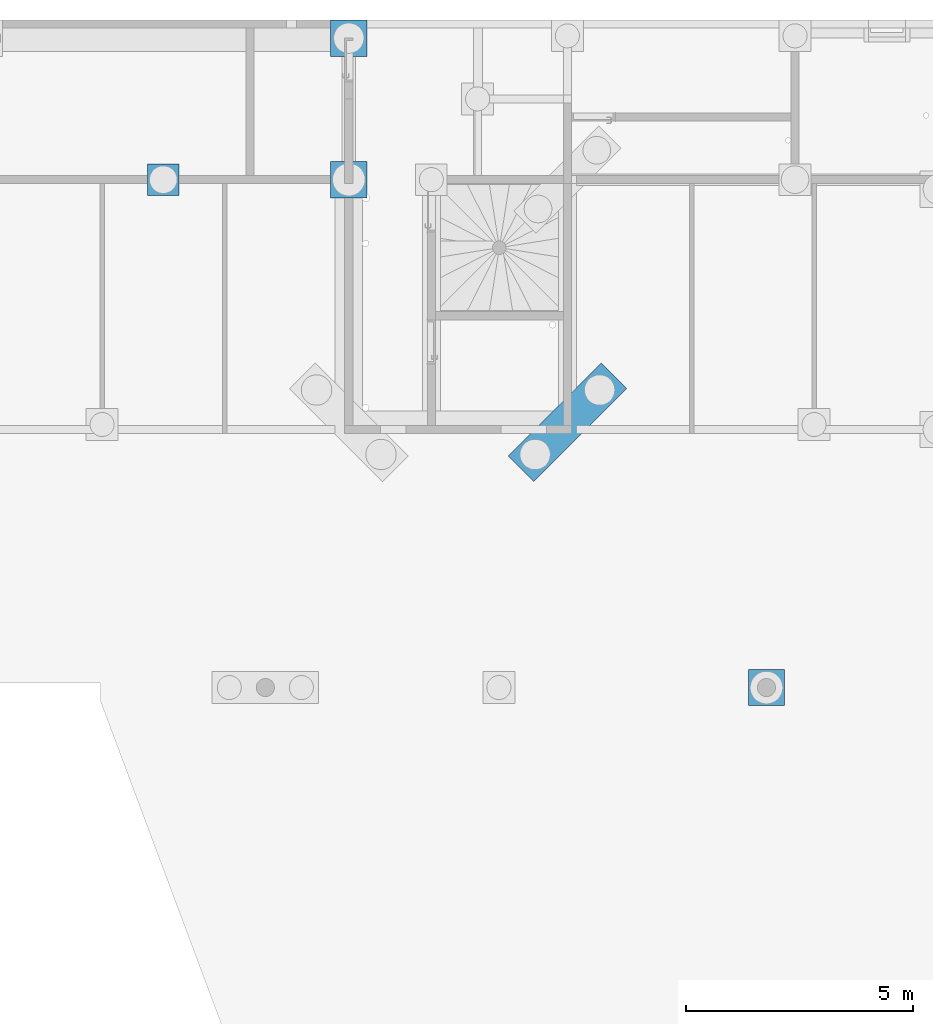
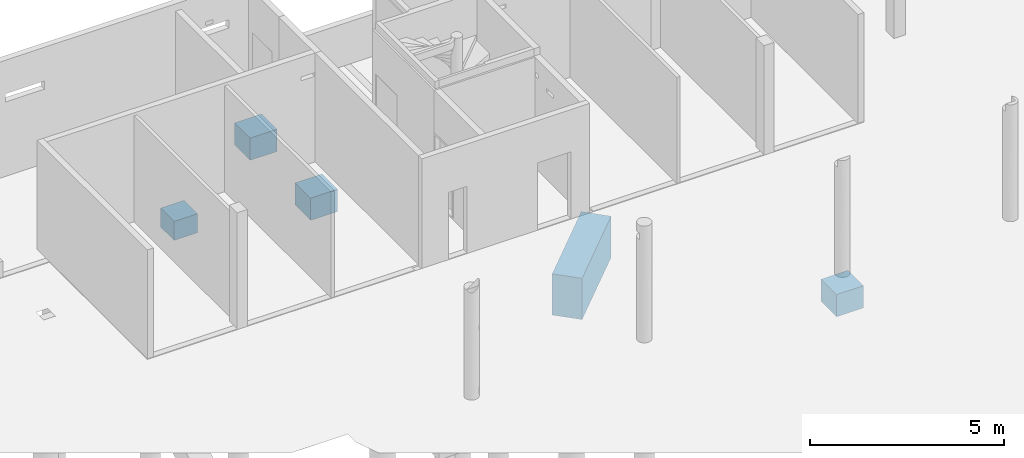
# One storey, part 18 of 29: 5 slabs.
"""IFC2X3 building model written with IfcOpenShell, lengths in centimetres."""

from ifc_helpers import new_model, entity, si_unit, converted_unit, derived_unit, direction, frame, origin, place, context, subcontext, project, spatial, faceted_brep, material, element, save


model = new_model("IFC2X3")

# Units and contexts
model_context = context("Model", 3, precision=0.001, world=origin(), true_north=direction((6.12303176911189e-17, 1.0)))
body_context = subcontext(model_context, "Body", "Model", "MODEL_VIEW")
ifc_project = project(units=[si_unit("LENGTHUNIT", "METRE", prefix="CENTI"), si_unit("AREAUNIT", "SQUARE_METRE"), si_unit("VOLUMEUNIT", "CUBIC_METRE"), converted_unit("PLANEANGLEUNIT", "DEGREE", entity("IfcRatioMeasure", 0.0174532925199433), si_unit("PLANEANGLEUNIT", "RADIAN"), dimensions=[0, 0, 0, 0, 0, 0, 0]), si_unit("MASSUNIT", "GRAM", prefix="KILO"), derived_unit("MASSDENSITYUNIT", [(si_unit("MASSUNIT", "GRAM", prefix="KILO"), 1), (si_unit("LENGTHUNIT", "METRE"), -3)]), si_unit("TIMEUNIT", "SECOND"), si_unit("FREQUENCYUNIT", "HERTZ"), si_unit("THERMODYNAMICTEMPERATUREUNIT", "DEGREE_CELSIUS"), derived_unit("THERMALTRANSMITTANCEUNIT", [(si_unit("MASSUNIT", "GRAM", prefix="KILO"), 1), (si_unit("THERMODYNAMICTEMPERATUREUNIT", "KELVIN"), -1), (si_unit("TIMEUNIT", "SECOND"), -3)]), derived_unit("VOLUMETRICFLOWRATEUNIT", [(si_unit("LENGTHUNIT", "METRE"), 3), (si_unit("TIMEUNIT", "SECOND"), -1)]), si_unit("ELECTRICCURRENTUNIT", "AMPERE"), si_unit("ELECTRICVOLTAGEUNIT", "VOLT"), si_unit("POWERUNIT", "WATT"), si_unit("FORCEUNIT", "NEWTON"), si_unit("ILLUMINANCEUNIT", "LUX"), si_unit("LUMINOUSFLUXUNIT", "LUMEN"), si_unit("LUMINOUSINTENSITYUNIT", "CANDELA"), derived_unit("USERDEFINED", [(si_unit("MASSUNIT", "GRAM", prefix="KILO"), -1), (si_unit("LENGTHUNIT", "METRE"), -2), (si_unit("TIMEUNIT", "SECOND"), 3), (si_unit("LUMINOUSFLUXUNIT", "LUMEN"), 1)]), derived_unit("LINEARVELOCITYUNIT", [(si_unit("LENGTHUNIT", "METRE"), 1), (si_unit("TIMEUNIT", "SECOND"), -1)]), si_unit("PRESSUREUNIT", "PASCAL"), derived_unit("USERDEFINED", [(si_unit("LENGTHUNIT", "METRE"), -2), (si_unit("MASSUNIT", "GRAM", prefix="KILO"), 1), (si_unit("TIMEUNIT", "SECOND"), -2)])], contexts=[model_context])

# Site, building, storey
site_placement = place(None, origin())
site = spatial("IfcSite", under=ifc_project, at=site_placement, Name="Default", CompositionType="ELEMENT")
building_placement = place(site_placement, origin())
building = spatial("IfcBuilding", under=site, at=building_placement, Name="CAGE 03", CompositionType="ELEMENT")
storey_placement = place(building_placement, frame((0.0, 0.0, -26.0)))
storey = spatial("IfcBuildingStorey", under=building, at=storey_placement, Name="+3.74", CompositionType="ELEMENT", Elevation=-26.0000000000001)

# Slabs
ifc_material = material(Name="Béton, C25/30")
slab_1_placement = place(storey_placement, frame((7191.55106562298, 4275.84591155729, -245.0)))
element("IfcSlab", 1, at=slab_1_placement, inside=storey, material=ifc_material, Name="M_Base-Rectangulaire:290x80x130ht", ObjectType="M_Base-Rectangulaire:290x80x130ht", PredefinedType="BASESLAB", context=body_context, shape_type="Brep", body=[
    faceted_brep([(205.060966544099, 261.629509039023, 130.0), (0.0, 56.568542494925, 130.0), (56.5685424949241, 0.0, 130.0), (261.629509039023, 205.060966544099, 130.0), (56.5685424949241, 0.0, 0.0), (84.5073217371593, 37.1817189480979, 0.0), (261.629509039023, 205.060966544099, 0.0), (79.090869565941, 34.4846462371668, 0.0), (73.6744173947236, 31.7875735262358, 0.0), (68.2579652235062, 29.0905008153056, 0.0), (62.8415130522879, 26.3934281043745, 0.0), (55.8795658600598, 29.0905008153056, 0.0), (48.9176186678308, 31.7875735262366, 0.0), (41.9556714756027, 34.4846462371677, 0.0), (34.9937242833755, 37.1817189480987, 0.0), (0.0, 56.568542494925, 0.0), (32.8079239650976, 42.8239199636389, 0.0), (30.6221236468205, 48.4661209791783, 0.0), (28.4363233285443, 54.1083219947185, 0.0), (26.2505230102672, 59.7505230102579, 0.0), (28.4363233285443, 65.3927240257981, 0.0), (30.6221236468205, 71.0349250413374, 0.0), (32.8079239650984, 76.6771260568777, 0.0), (34.9937242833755, 82.3193270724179, 0.0), (177.122187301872, 224.447790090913, 0.0), (205.060966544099, 261.629509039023, 0.0), (226.635784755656, 224.447790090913, 0.0), (219.673837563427, 227.144862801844, 0.0), (182.538639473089, 227.144862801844, 0.0), (187.955091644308, 229.841935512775, 0.0), (193.371543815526, 232.539008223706, 0.0), (198.787995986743, 235.236080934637, 0.0), (212.711890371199, 229.841935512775, 0.0), (205.749943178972, 232.539008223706, 0.0), (40.4101764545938, 85.0163997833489, 0.0), (45.8266286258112, 87.71347249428, 0.0), (51.2430807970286, 90.4105452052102, 0.0), (56.6595329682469, 93.1076179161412, 0.0), (174.936386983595, 218.805589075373, 0.0), (172.750586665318, 213.163388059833, 0.0), (170.564786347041, 207.521187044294, 0.0), (168.378986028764, 201.878986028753, 0.0), (170.564786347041, 196.236785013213, 0.0), (172.750586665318, 190.594583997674, 0.0), (174.936386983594, 184.952382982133, 0.0), (177.122187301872, 179.310181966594, 0.0), (63.621480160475, 90.4105452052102, 0.0), (70.5834273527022, 87.7134724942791, 0.0), (77.5453745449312, 85.0163997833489, 0.0), (84.5073217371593, 82.3193270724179, 0.0), (184.084134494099, 176.613109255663, 0.0), (191.046081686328, 173.916036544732, 0.0), (198.008028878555, 171.218963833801, 0.0), (204.969976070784, 168.52189112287, 0.0), (86.6931220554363, 42.8239199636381, 0.0), (210.386428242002, 171.218963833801, 0.0), (86.6931220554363, 76.6771260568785, 0.0), (88.8789223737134, 71.0349250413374, 0.0), (91.0647226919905, 65.3927240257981, 0.0), (93.2505230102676, 59.7505230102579, 0.0), (88.8789223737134, 48.4661209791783, 0.0), (91.0647226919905, 54.1083219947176, 0.0), (215.80288041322, 173.916036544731, 0.0), (221.219332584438, 176.613109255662, 0.0), (226.635784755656, 179.310181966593, 0.0), (228.821585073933, 184.952382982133, 0.0), (231.00738539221, 190.594583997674, 0.0), (233.193185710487, 196.236785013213, 0.0), (235.378986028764, 201.878986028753, 0.0), (233.193185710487, 207.521187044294, 0.0), (231.00738539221, 213.163388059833, 0.0), (228.821585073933, 218.805589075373, 0.0), (84.5073217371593, 37.1817189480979, 5.0), (77.5453745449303, 34.4846462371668, 5.0), (70.5834273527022, 31.7875735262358, 5.0), (63.6214801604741, 29.0905008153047, 5.0), (56.6595329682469, 26.3934281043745, 5.0), (51.2430807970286, 29.0905008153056, 5.0), (45.8266286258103, 31.7875735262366, 5.0), (40.4101764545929, 34.4846462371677, 5.0), (34.9937242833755, 37.1817189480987, 5.0), (32.8079239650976, 42.8239199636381, 5.0), (30.6221236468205, 48.4661209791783, 5.0), (29.0710783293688, 52.4698304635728, 5.0), (26.2505230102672, 59.7505230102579, 5.0), (29.0710783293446, 67.0312155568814, 5.0), (30.6221236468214, 71.0349250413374, 5.0), (32.8079239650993, 76.6771260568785, 5.0), (34.9937242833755, 82.3193270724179, 5.0), (41.9556714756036, 85.0163997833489, 5.0), (48.9176186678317, 87.71347249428, 5.0), (55.8795658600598, 90.410545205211, 5.0), (62.8415130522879, 93.1076179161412, 5.0), (68.2579652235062, 90.4105452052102, 5.0), (73.6744173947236, 87.7134724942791, 5.0), (79.0908695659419, 85.0163997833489, 5.0), (84.5073217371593, 82.3193270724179, 5.0), (86.6931220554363, 76.6771260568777, 5.0), (88.8789223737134, 71.0349250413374, 5.0), (90.4299676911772, 67.0312155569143, 5.0), (93.2505230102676, 59.7505230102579, 5.0), (90.4299676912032, 52.4698304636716, 5.0), (88.8789223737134, 48.4661209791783, 5.0), (86.6931220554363, 42.8239199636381, 5.0), (226.635784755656, 179.310181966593, 5.0), (219.673837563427, 176.613109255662, 5.0), (212.711890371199, 173.916036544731, 5.0), (205.74994317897, 171.2189638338, 5.0), (198.787995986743, 168.52189112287, 5.0), (193.371543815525, 171.218963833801, 5.0), (187.955091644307, 173.916036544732, 5.0), (182.538639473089, 176.613109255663, 5.0), (177.122187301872, 179.310181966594, 5.0), (174.936386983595, 184.952382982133, 5.0), (172.750586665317, 190.594583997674, 5.0), (171.199541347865, 194.598293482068, 5.0), (168.378986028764, 201.878986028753, 5.0), (171.199541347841, 209.159678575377, 5.0), (172.750586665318, 213.163388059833, 5.0), (174.936386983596, 218.805589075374, 5.0), (177.122187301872, 224.447790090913, 5.0), (184.084134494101, 227.144862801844, 5.0), (191.046081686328, 229.841935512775, 5.0), (198.008028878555, 232.539008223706, 5.0), (204.969976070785, 235.236080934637, 5.0), (210.386428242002, 232.539008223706, 5.0), (215.802880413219, 229.841935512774, 5.0), (221.219332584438, 227.144862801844, 5.0), (226.635784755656, 224.447790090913, 5.0), (228.821585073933, 218.805589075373, 5.0), (231.00738539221, 213.163388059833, 5.0), (232.558430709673, 209.15967857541, 5.0), (235.378986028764, 201.878986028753, 5.0), (232.5584307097, 194.598293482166, 5.0), (231.00738539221, 190.594583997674, 5.0), (228.821585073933, 184.952382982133, 5.0)], [[[0, 1, 2, 3]], [[4, 5, 6]], [[4, 7, 5]], [[4, 8, 7]], [[4, 9, 8]], [[4, 10, 9]], [[4, 11, 10]], [[4, 12, 11]], [[4, 13, 12]], [[4, 14, 13]], [[14, 4, 15]], [[15, 16, 14]], [[15, 17, 16]], [[15, 18, 17]], [[15, 19, 18]], [[15, 20, 19]], [[15, 21, 20]], [[15, 22, 21]], [[15, 23, 22]], [[23, 15, 24]], [[25, 24, 15]], [[6, 26, 25]], [[25, 26, 27]], [[25, 28, 24]], [[25, 29, 28]], [[25, 30, 29]], [[25, 31, 30]], [[25, 27, 32]], [[25, 32, 33]], [[25, 33, 31]], [[24, 34, 23]], [[24, 35, 34]], [[24, 36, 35]], [[24, 37, 36]], [[37, 24, 38]], [[37, 38, 39]], [[37, 39, 40]], [[37, 40, 41]], [[37, 41, 42]], [[37, 42, 43]], [[37, 43, 44]], [[37, 44, 45]], [[45, 46, 37]], [[45, 47, 46]], [[45, 48, 47]], [[45, 49, 48]], [[49, 45, 50]], [[49, 50, 51]], [[49, 51, 52]], [[49, 52, 53]], [[53, 5, 54]], [[5, 53, 55]], [[53, 56, 49]], [[53, 57, 56]], [[53, 58, 57]], [[53, 59, 58]], [[53, 54, 60]], [[53, 60, 61]], [[53, 61, 59]], [[5, 55, 62]], [[5, 62, 63]], [[5, 63, 64]], [[6, 64, 65]], [[64, 6, 5]], [[6, 65, 66]], [[6, 66, 67]], [[6, 67, 68]], [[6, 68, 69]], [[6, 69, 70]], [[6, 70, 71]], [[6, 71, 26]], [[2, 1, 15, 4]], [[3, 2, 4, 6]], [[0, 3, 6, 25]], [[1, 0, 25, 15]], [[72, 73, 74, 75, 76, 77, 78, 79, 80, 81, 82, 83, 84, 85, 86, 87, 88, 89, 90, 91, 92, 93, 94, 95, 96, 97, 98, 99, 100, 101, 102, 103]], [[104, 105, 106, 107, 108, 109, 110, 111, 112, 113, 114, 115, 116, 117, 118, 119, 120, 121, 122, 123, 124, 125, 126, 127, 128, 129, 130, 131, 132, 133, 134, 135]], [[18, 19, 84, 83, 82, 81, 80, 14, 16, 17]], [[61, 60, 54, 5, 72, 103, 102, 101, 100, 59]], [[80, 79, 14]], [[79, 78, 13]], [[5, 7, 72]], [[74, 9, 75]], [[7, 73, 72]], [[10, 11, 76]], [[12, 13, 78]], [[79, 13, 14]], [[7, 8, 73]], [[73, 8, 74]], [[12, 77, 11]], [[10, 75, 9]], [[74, 8, 9]], [[76, 11, 77]], [[12, 78, 77]], [[10, 76, 75]], [[58, 59, 100, 99, 98, 97, 96, 49, 56, 57]], [[20, 21, 22, 23, 88, 87, 86, 85, 84, 19]], [[96, 95, 49]], [[95, 94, 48]], [[23, 34, 88]], [[90, 36, 91]], [[34, 89, 88]], [[37, 46, 92]], [[47, 48, 94]], [[95, 48, 49]], [[34, 35, 89]], [[89, 35, 90]], [[47, 93, 46]], [[37, 91, 36]], [[90, 35, 36]], [[92, 46, 93]], [[47, 94, 93]], [[37, 92, 91]], [[42, 41, 116, 115, 114, 113, 112, 45, 44, 43]], [[67, 66, 65, 64, 104, 135, 134, 133, 132, 68]], [[112, 111, 45]], [[111, 110, 50]], [[64, 63, 104]], [[106, 55, 107]], [[63, 105, 104]], [[53, 52, 108]], [[51, 50, 110]], [[111, 50, 45]], [[63, 62, 105]], [[105, 62, 106]], [[51, 109, 52]], [[53, 107, 55]], [[106, 62, 55]], [[108, 52, 109]], [[51, 110, 109]], [[53, 108, 107]], [[69, 68, 132, 131, 130, 129, 128, 26, 71, 70]], [[40, 39, 38, 24, 120, 119, 118, 117, 116, 41]], [[128, 127, 26]], [[127, 126, 27]], [[24, 28, 120]], [[122, 30, 123]], [[28, 121, 120]], [[31, 33, 124]], [[32, 27, 126]], [[127, 27, 26]], [[28, 29, 121]], [[121, 29, 122]], [[32, 125, 33]], [[31, 123, 30]], [[122, 29, 30]], [[124, 33, 125]], [[32, 126, 125]], [[31, 124, 123]]]),
])
slab_2_placement = place(storey_placement, frame((7721.36582014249, 3781.6606660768, -102.0)))
element("IfcSlab", 2, at=slab_2_placement, inside=storey, material=ifc_material, Name="M_Base-Rectangulaire:80x80x70ht", ObjectType="M_Base-Rectangulaire:80x80x70ht", PredefinedType="BASESLAB", context=body_context, shape_type="Brep", body=[
    faceted_brep([(80.0, 80.0, 70.0), (0.0, 80.0, 70.0), (0.0, 0.0, 70.0), (80.0, 0.0, 70.0), (0.0, 0.0, 0.0), (4.0, 40.0, 0.0), (6.34891974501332, 33.9367392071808, 0.0), (0.0, 80.0, 0.0), (8.69783949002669, 27.8734784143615, 0.0), (11.0467592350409, 21.8102176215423, 0.0), (13.3956789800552, 15.7469568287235, 0.0), (20.8771744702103, 12.8486100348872, 0.0), (28.3586699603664, 9.9502632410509, 0.0), (35.8401654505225, 7.05191644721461, 0.0), (43.3216609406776, 4.15356965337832, 0.0), (80.0, 0.0, 0.0), (6.34891974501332, 46.0632607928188, 0.0), (8.69783949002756, 52.1265215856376, 0.0), (11.0467592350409, 58.1897823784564, 0.0), (13.3956789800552, 64.2530431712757, 0.0), (19.2163439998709, 67.1513899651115, 0.0), (25.0370090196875, 70.0497367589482, 0.0), (30.857674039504, 72.9480835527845, 0.0), (36.6783390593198, 75.8464303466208, 0.0), (80.0, 80.0, 0.0), (76.0, 40.0, 0.0), (73.6510802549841, 46.0632607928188, 0.0), (71.3021605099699, 52.1265215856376, 0.0), (68.9532407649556, 58.1897823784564, 0.0), (66.6043210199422, 64.2530431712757, 0.0), (59.1228255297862, 67.1513899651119, 0.0), (51.641330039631, 70.0497367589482, 0.0), (44.1598345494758, 72.9480835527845, 0.0), (49.1423259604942, 7.05191644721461, 0.0), (54.9629909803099, 9.95026324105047, 0.0), (60.7836560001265, 12.8486100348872, 0.0), (66.6043210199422, 15.7469568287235, 0.0), (68.9532407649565, 21.8102176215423, 0.0), (71.3021605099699, 27.8734784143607, 0.0), (73.6510802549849, 33.9367392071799, 0.0), (66.6043210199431, 15.7469568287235, 5.0), (59.1228255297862, 12.8486100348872, 5.0), (51.641330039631, 9.95026324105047, 5.0), (44.1598345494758, 7.05191644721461, 5.0), (36.6783390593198, 4.15356965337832, 5.0), (30.857674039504, 7.05191644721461, 5.0), (25.0370090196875, 9.95026324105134, 5.0), (19.21634399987, 12.8486100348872, 5.0), (13.3956789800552, 15.7469568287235, 5.0), (11.0467592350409, 21.8102176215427, 5.0), (8.69783949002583, 27.8734784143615, 5.0), (6.92390641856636, 32.4525275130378, 5.0), (4.0, 40.0, 5.0), (6.92390641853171, 47.5474724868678, 5.0), (8.69783949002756, 52.1265215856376, 5.0), (11.0467592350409, 58.1897823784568, 5.0), (13.3956789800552, 64.2530431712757, 5.0), (20.8771744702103, 67.1513899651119, 5.0), (28.3586699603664, 70.0497367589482, 5.0), (35.8401654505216, 72.9480835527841, 5.0), (43.3216609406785, 75.8464303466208, 5.0), (49.1423259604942, 72.9480835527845, 5.0), (54.9629909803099, 70.0497367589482, 5.0), (60.7836560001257, 67.1513899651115, 5.0), (66.6043210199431, 64.2530431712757, 5.0), (68.9532407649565, 58.1897823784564, 5.0), (71.3021605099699, 52.1265215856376, 5.0), (73.0760935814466, 47.5474724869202, 5.0), (76.0, 40.0, 5.0), (73.0760935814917, 32.4525275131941, 5.0), (71.3021605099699, 27.8734784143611, 5.0), (68.9532407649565, 21.8102176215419, 5.0)], [[[0, 1, 2, 3]], [[4, 5, 6]], [[5, 4, 7]], [[4, 6, 8]], [[4, 8, 9]], [[4, 9, 10]], [[4, 10, 11]], [[4, 11, 12]], [[4, 12, 13]], [[4, 13, 14]], [[14, 15, 4]], [[7, 16, 5]], [[7, 17, 16]], [[7, 18, 17]], [[7, 19, 18]], [[7, 20, 19]], [[7, 21, 20]], [[7, 22, 21]], [[7, 23, 22]], [[23, 7, 24]], [[25, 24, 15]], [[24, 25, 26]], [[24, 26, 27]], [[24, 27, 28]], [[24, 28, 29]], [[24, 29, 30]], [[24, 30, 31]], [[24, 31, 32]], [[24, 32, 23]], [[15, 14, 33]], [[15, 33, 34]], [[15, 34, 35]], [[15, 35, 36]], [[15, 36, 37]], [[15, 37, 38]], [[15, 38, 39]], [[15, 39, 25]], [[2, 1, 7, 4]], [[3, 2, 4, 15]], [[0, 3, 15, 24]], [[1, 0, 24, 7]], [[40, 41, 42, 43, 44, 45, 46, 47, 48, 49, 50, 51, 52, 53, 54, 55, 56, 57, 58, 59, 60, 61, 62, 63, 64, 65, 66, 67, 68, 69, 70, 71]], [[6, 5, 52, 51, 50, 49, 48, 10, 9, 8]], [[39, 38, 37, 36, 40, 71, 70, 69, 68, 25]], [[48, 47, 10]], [[47, 46, 11]], [[36, 35, 40]], [[42, 33, 43]], [[35, 41, 40]], [[14, 13, 44]], [[12, 11, 46]], [[47, 11, 10]], [[35, 34, 41]], [[41, 34, 42]], [[12, 45, 13]], [[14, 43, 33]], [[42, 34, 33]], [[44, 13, 45]], [[12, 46, 45]], [[14, 44, 43]], [[26, 25, 68, 67, 66, 65, 64, 29, 28, 27]], [[16, 17, 18, 19, 56, 55, 54, 53, 52, 5]], [[64, 63, 29]], [[63, 62, 30]], [[19, 20, 56]], [[58, 22, 59]], [[20, 57, 56]], [[23, 32, 60]], [[31, 30, 62]], [[63, 30, 29]], [[20, 21, 57]], [[57, 21, 58]], [[31, 61, 32]], [[23, 59, 22]], [[58, 21, 22]], [[60, 32, 61]], [[31, 62, 61]], [[23, 60, 59]]]),
])
slab_3_placement = place(storey_placement, frame((6800.36582014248, 5213.66066607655, -155.0)))
element("IfcSlab", 3, at=slab_3_placement, inside=storey, material=ifc_material, Name="M_Base-Rectangulaire:80x80x70ht", ObjectType="M_Base-Rectangulaire:80x80x70ht", PredefinedType="BASESLAB", context=body_context, shape_type="Brep", body=[
    faceted_brep([(80.0, 80.0, 70.0), (55.0, 80.0, 70.0), (25.0, 80.0, 70.0), (0.0, 80.0, 70.0), (0.0, 0.0, 70.0), (80.0, 0.0, 70.0), (0.0, 0.0, 0.0), (6.50000000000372, 40.0, 0.0), (8.68580031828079, 34.3577989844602, 0.0), (0.0, 80.0, 0.0), (10.8716006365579, 28.7155979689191, 0.0), (13.0574009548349, 23.0733969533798, 0.0), (15.243201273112, 17.4311959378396, 0.0), (22.2051484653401, 14.7341232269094, 0.0), (29.1670956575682, 12.0370505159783, 0.0), (36.1290428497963, 9.33997780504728, 0.0), (43.0909900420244, 6.64290509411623, 0.0), (80.0, 0.0, 0.0), (8.68580031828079, 45.6422010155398, 0.0), (10.8716006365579, 51.2844020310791, 0.0), (13.0574009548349, 56.9266030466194, 0.0), (15.243201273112, 62.5688040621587, 0.0), (20.6596534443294, 65.2658767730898, 0.0), (26.0761056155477, 67.9629494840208, 0.0), (31.4925577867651, 70.6600221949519, 0.0), (36.9090099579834, 73.3570949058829, 0.0), (80.0, 80.0, 0.0), (73.5000000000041, 40.0, 0.0), (71.314199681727, 45.6422010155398, 0.0), (69.1283993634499, 51.28440203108, 0.0), (66.942599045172, 56.9266030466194, 0.0), (64.7567987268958, 62.5688040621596, 0.0), (57.7948515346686, 65.2658767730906, 0.0), (50.8329043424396, 67.9629494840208, 0.0), (43.8709571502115, 70.6600221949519, 0.0), (48.5074422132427, 9.33997780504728, 0.0), (53.9238943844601, 12.0370505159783, 0.0), (59.3403465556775, 14.7341232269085, 0.0), (64.7567987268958, 17.4311959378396, 0.0), (66.9425990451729, 23.0733969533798, 0.0), (69.1283993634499, 28.7155979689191, 0.0), (71.3141996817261, 34.3577989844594, 0.0), (64.7567987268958, 17.4311959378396, 5.0), (57.7948515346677, 14.7341232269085, 5.0), (50.8329043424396, 12.0370505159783, 5.0), (43.8709571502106, 9.33997780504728, 5.0), (36.9090099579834, 6.64290509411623, 5.0), (31.4925577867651, 9.33997780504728, 5.0), (26.0761056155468, 12.0370505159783, 5.0), (20.6596534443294, 14.7341232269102, 5.0), (15.243201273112, 17.4311959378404, 5.0), (13.0574009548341, 23.0733969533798, 5.0), (10.871600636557, 28.71559796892, 5.0), (9.32055531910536, 32.7193074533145, 5.0), (6.50000000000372, 40.0, 5.0), (9.32055531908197, 47.2806925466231, 5.0), (10.8716006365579, 51.28440203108, 5.0), (13.0574009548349, 56.9266030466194, 5.0), (15.243201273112, 62.5688040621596, 5.0), (22.2051484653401, 65.2658767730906, 5.0), (29.1670956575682, 67.9629494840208, 5.0), (36.1290428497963, 70.6600221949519, 5.0), (43.0909900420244, 73.3570949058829, 5.0), (48.5074422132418, 70.6600221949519, 5.0), (53.9238943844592, 67.9629494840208, 5.0), (59.3403465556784, 65.2658767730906, 5.0), (64.7567987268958, 62.5688040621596, 5.0), (66.9425990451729, 56.9266030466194, 5.0), (69.1283993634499, 51.28440203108, 5.0), (70.6794446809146, 47.280692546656, 5.0), (73.5000000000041, 40.0, 5.0), (70.6794446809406, 32.7193074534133, 5.0), (69.1283993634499, 28.7155979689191, 5.0), (66.9425990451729, 23.0733969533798, 5.0)], [[[0, 1, 2, 3, 4, 5]], [[6, 7, 8]], [[7, 6, 9]], [[6, 8, 10]], [[6, 10, 11]], [[6, 11, 12]], [[6, 12, 13]], [[6, 13, 14]], [[6, 14, 15]], [[6, 15, 16]], [[16, 17, 6]], [[9, 18, 7]], [[9, 19, 18]], [[9, 20, 19]], [[9, 21, 20]], [[9, 22, 21]], [[9, 23, 22]], [[9, 24, 23]], [[9, 25, 24]], [[25, 9, 26]], [[27, 26, 17]], [[26, 27, 28]], [[26, 28, 29]], [[26, 29, 30]], [[26, 30, 31]], [[26, 31, 32]], [[26, 32, 33]], [[26, 33, 34]], [[26, 34, 25]], [[17, 16, 35]], [[17, 35, 36]], [[17, 36, 37]], [[17, 37, 38]], [[17, 38, 39]], [[17, 39, 40]], [[17, 40, 41]], [[17, 41, 27]], [[4, 3, 9, 6]], [[5, 4, 6, 17]], [[0, 5, 17, 26]], [[3, 2, 1, 0, 26, 9]], [[42, 43, 44, 45, 46, 47, 48, 49, 50, 51, 52, 53, 54, 55, 56, 57, 58, 59, 60, 61, 62, 63, 64, 65, 66, 67, 68, 69, 70, 71, 72, 73]], [[8, 7, 54, 53, 52, 51, 50, 12, 11, 10]], [[41, 40, 39, 38, 42, 73, 72, 71, 70, 27]], [[50, 49, 12]], [[49, 48, 13]], [[38, 37, 42]], [[44, 35, 45]], [[37, 43, 42]], [[16, 15, 46]], [[14, 13, 48]], [[49, 13, 12]], [[37, 36, 43]], [[43, 36, 44]], [[14, 47, 15]], [[16, 45, 35]], [[44, 36, 35]], [[46, 15, 47]], [[14, 48, 47]], [[16, 46, 45]], [[28, 27, 70, 69, 68, 67, 66, 31, 30, 29]], [[18, 19, 20, 21, 58, 57, 56, 55, 54, 7]], [[66, 65, 31]], [[65, 64, 32]], [[21, 22, 58]], [[60, 24, 61]], [[22, 59, 58]], [[25, 34, 62]], [[33, 32, 64]], [[65, 32, 31]], [[22, 23, 59]], [[59, 23, 60]], [[33, 63, 34]], [[25, 61, 24]], [[60, 23, 24]], [[62, 34, 63]], [[33, 64, 63]], [[25, 62, 61]]]),
])
slab_4_placement = place(storey_placement, frame((6396.36582014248, 4906.6606660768, -80.0)))
element("IfcSlab", 4, at=slab_4_placement, inside=storey, material=ifc_material, Name="M_Base-Rectangulaire:70x70x60ht", ObjectType="M_Base-Rectangulaire:70x70x60ht", PredefinedType="BASESLAB", context=body_context, shape_type="Brep", body=[
    faceted_brep([(70.0, 70.0, 60.0), (0.0, 70.0, 60.0), (0.0, 0.0, 60.0), (70.0, 0.0, 60.0), (0.0, 0.0, 0.0), (4.50000000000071, 35.0, 0.0), (6.73331079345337, 29.6083107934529, 0.0), (0.0, 70.0, 0.0), (8.96662158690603, 24.2166215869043, 0.0), (11.1999323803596, 18.8249323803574, 0.0), (13.4332431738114, 13.4332431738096, 0.0), (18.8249323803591, 11.199932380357, 0.0), (24.216621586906, 8.96662158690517, 0.0), (29.6083107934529, 6.73331079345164, 0.0), (35.0, 4.49999999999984, 0.0), (70.0, 0.0, 0.0), (6.73331079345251, 40.3916892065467, 0.0), (8.96662158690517, 45.7833784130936, 0.0), (11.1999323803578, 51.1750676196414, 0.0), (13.4332431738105, 56.5667568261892, 0.0), (18.8249323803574, 58.8000676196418, 0.0), (24.2166215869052, 61.0333784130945, 0.0), (29.6083107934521, 63.2666892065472, 0.0), (35.0, 65.4999999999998, 0.0), (70.0, 70.0, 0.0), (65.5000000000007, 35.0, 0.0), (63.2666892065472, 40.3916892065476, 0.0), (61.0333784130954, 45.7833784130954, 0.0), (58.8000676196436, 51.1750676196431, 0.0), (56.5667568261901, 56.5667568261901, 0.0), (51.1750676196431, 58.8000676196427, 0.0), (45.7833784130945, 61.0333784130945, 0.0), (40.3916892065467, 63.2666892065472, 0.0), (40.3916892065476, 6.73331079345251, 0.0), (45.7833784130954, 8.96662158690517, 0.0), (51.1750676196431, 11.199932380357, 0.0), (56.5667568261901, 13.4332431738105, 0.0), (58.8000676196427, 18.8249323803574, 0.0), (61.0333784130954, 24.2166215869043, 0.0), (63.266689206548, 29.6083107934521, 0.0), (35.0, 65.4999999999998, 5.0), (40.3916892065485, 63.2666892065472, 5.0), (45.7833784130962, 61.0333784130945, 5.0), (51.1750676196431, 58.8000676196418, 5.0), (56.5667568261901, 56.5667568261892, 5.0), (59.8147856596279, 48.725321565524, 5.0), (62.6573928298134, 41.8626607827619, 5.0), (65.5000000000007, 35.0, 5.0), (62.6573928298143, 28.1373392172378, 5.0), (61.0333784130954, 24.2166215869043, 5.0), (58.8000676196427, 18.8249323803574, 5.0), (56.5667568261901, 13.4332431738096, 5.0), (51.1750676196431, 11.199932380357, 5.0), (45.7833784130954, 8.96662158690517, 5.0), (40.3916892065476, 6.73331079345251, 5.0), (35.0, 4.49999999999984, 5.0), (29.6083107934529, 6.73331079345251, 5.0), (24.2166215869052, 8.96662158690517, 5.0), (18.8249323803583, 11.1999323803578, 5.0), (13.4332431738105, 13.4332431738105, 5.0), (10.1852143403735, 21.2746784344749, 5.0), (7.3426071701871, 28.1373392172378, 5.0), (4.50000000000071, 35.0, 5.0), (7.3426071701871, 41.8626607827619, 5.0), (8.96662158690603, 45.7833784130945, 5.0), (11.1999323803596, 51.1750676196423, 5.0), (13.4332431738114, 56.5667568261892, 5.0), (18.8249323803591, 58.8000676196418, 5.0), (24.2166215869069, 61.0333784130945, 5.0), (29.6083107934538, 63.2666892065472, 5.0)], [[[0, 1, 2, 3]], [[4, 5, 6]], [[5, 4, 7]], [[4, 6, 8]], [[4, 8, 9]], [[4, 9, 10]], [[4, 10, 11]], [[4, 11, 12]], [[4, 12, 13]], [[4, 13, 14]], [[14, 15, 4]], [[7, 16, 5]], [[7, 17, 16]], [[7, 18, 17]], [[7, 19, 18]], [[7, 20, 19]], [[7, 21, 20]], [[7, 22, 21]], [[7, 23, 22]], [[23, 7, 24]], [[25, 24, 15]], [[24, 25, 26]], [[24, 26, 27]], [[24, 27, 28]], [[24, 28, 29]], [[24, 29, 30]], [[24, 30, 31]], [[24, 31, 32]], [[24, 32, 23]], [[15, 14, 33]], [[15, 33, 34]], [[15, 34, 35]], [[15, 35, 36]], [[15, 36, 37]], [[15, 37, 38]], [[15, 38, 39]], [[15, 39, 25]], [[2, 1, 7, 4]], [[3, 2, 4, 15]], [[0, 3, 15, 24]], [[1, 0, 24, 7]], [[40, 41, 42, 43, 44, 45, 46, 47, 48, 49, 50, 51, 52, 53, 54, 55, 56, 57, 58, 59, 60, 61, 62, 63, 64, 65, 66, 67, 68, 69]], [[10, 59, 58, 57, 56, 55, 14, 13, 12, 11]], [[39, 38, 37, 36, 51, 50, 49, 48, 47, 25]], [[10, 9, 8, 6, 5, 62, 61, 60, 59]], [[33, 14, 55, 54, 53, 52, 51, 36, 35, 34]], [[29, 44, 43, 42, 41, 40, 23, 32, 31, 30]], [[16, 17, 18, 19, 66, 65, 64, 63, 62, 5]], [[29, 28, 27, 26, 25, 47, 46, 45, 44]], [[22, 23, 40, 69, 68, 67, 66, 19, 20, 21]]]),
])
slab_5_placement = place(storey_placement, frame((6800.36582014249, 4901.6606660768, -155.0)))
element("IfcSlab", 5, at=slab_5_placement, inside=storey, material=ifc_material, Name="M_Base-Rectangulaire:80x80x70ht", ObjectType="M_Base-Rectangulaire:80x80x70ht", PredefinedType="BASESLAB", context=body_context, shape_type="Brep", body=[
    faceted_brep([(80.0, 80.0, 70.0), (0.0, 80.0, 70.0), (0.0, 0.0, 70.0), (80.0, 0.0, 70.0), (0.0, 0.0, 0.0), (4.0, 40.0, 0.0), (6.34891974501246, 33.9367392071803, 0.0), (0.0, 80.0, 0.0), (8.69783949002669, 27.8734784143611, 0.0), (11.0467592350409, 21.8102176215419, 0.0), (13.3956789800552, 15.7469568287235, 0.0), (20.8771744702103, 12.8486100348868, 0.0), (28.3586699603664, 9.9502632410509, 0.0), (35.8401654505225, 7.05191644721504, 0.0), (43.3216609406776, 4.15356965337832, 0.0), (80.0, 0.0, 0.0), (6.34891974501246, 46.0632607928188, 0.0), (8.69783949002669, 52.126521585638, 0.0), (11.0467592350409, 58.1897823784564, 0.0), (13.3956789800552, 64.2530431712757, 0.0), (19.2163439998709, 67.1513899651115, 0.0), (25.0370090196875, 70.0497367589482, 0.0), (30.8576740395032, 72.9480835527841, 0.0), (36.6783390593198, 75.8464303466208, 0.0), (80.0, 80.0, 0.0), (76.0, 40.0, 0.0), (73.6510802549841, 46.0632607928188, 0.0), (71.3021605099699, 52.126521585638, 0.0), (68.9532407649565, 58.1897823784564, 0.0), (66.6043210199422, 64.2530431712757, 0.0), (59.1228255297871, 67.1513899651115, 0.0), (51.641330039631, 70.0497367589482, 0.0), (44.1598345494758, 72.948083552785, 0.0), (49.1423259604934, 7.05191644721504, 0.0), (54.9629909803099, 9.9502632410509, 0.0), (60.7836560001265, 12.8486100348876, 0.0), (66.6043210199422, 15.7469568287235, 0.0), (68.9532407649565, 21.8102176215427, 0.0), (71.3021605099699, 27.8734784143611, 0.0), (73.6510802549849, 33.9367392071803, 0.0), (28.3586699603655, 9.9502632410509, 5.0), (35.8401654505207, 7.05191644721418, 5.0), (43.3216609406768, 4.15356965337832, 5.0), (13.3956789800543, 15.7469568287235, 5.0), (20.8771744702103, 12.8486100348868, 5.0), (66.6043210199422, 15.7469568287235, 5.0), (68.9532407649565, 21.8102176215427, 5.0), (71.3021605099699, 27.8734784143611, 5.0), (73.0760935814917, 32.4525275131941, 5.0), (76.0, 40.0, 5.0), (4.0, 40.0, 5.0), (6.92390641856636, 32.4525275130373, 5.0), (9.84781283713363, 24.9050550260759, 5.0), (49.1423259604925, 7.05191644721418, 5.0), (54.9629909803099, 9.9502632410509, 5.0), (60.7836560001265, 12.8486100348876, 5.0), (66.6043210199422, 64.2530431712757, 5.0), (59.1228255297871, 67.1513899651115, 5.0), (51.641330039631, 70.0497367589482, 5.0), (44.159834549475, 72.948083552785, 5.0), (36.6783390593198, 75.8464303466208, 5.0), (13.3956789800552, 64.2530431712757, 5.0), (11.0467592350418, 58.1897823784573, 5.0), (8.69783949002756, 52.126521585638, 5.0), (6.92390641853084, 47.5474724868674, 5.0), (73.0760935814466, 47.5474724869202, 5.0), (70.152187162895, 55.09494497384, 5.0), (30.8576740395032, 72.9480835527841, 5.0), (25.0370090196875, 70.0497367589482, 5.0), (19.2163439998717, 67.1513899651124, 5.0)], [[[0, 1, 2, 3]], [[4, 5, 6]], [[5, 4, 7]], [[4, 6, 8]], [[4, 8, 9]], [[4, 9, 10]], [[4, 10, 11]], [[4, 11, 12]], [[4, 12, 13]], [[4, 13, 14]], [[14, 15, 4]], [[7, 16, 5]], [[7, 17, 16]], [[7, 18, 17]], [[7, 19, 18]], [[7, 20, 19]], [[7, 21, 20]], [[7, 22, 21]], [[7, 23, 22]], [[23, 7, 24]], [[25, 24, 15]], [[24, 25, 26]], [[24, 26, 27]], [[24, 27, 28]], [[24, 28, 29]], [[24, 29, 30]], [[24, 30, 31]], [[24, 31, 32]], [[24, 32, 23]], [[15, 14, 33]], [[15, 33, 34]], [[15, 34, 35]], [[15, 35, 36]], [[15, 36, 37]], [[15, 37, 38]], [[15, 38, 39]], [[15, 39, 25]], [[2, 1, 7, 4]], [[3, 2, 4, 15]], [[0, 3, 15, 24]], [[1, 0, 24, 7]], [[40, 41, 42, 14, 13, 12, 11, 10, 43, 44]], [[39, 38, 37, 36, 45, 46, 47, 48, 49, 25]], [[10, 9, 8, 6, 5, 50, 51, 52, 43]], [[33, 14, 42, 53, 54, 55, 45, 36, 35, 34]], [[30, 29, 56, 57, 58, 59, 60, 23, 32, 31]], [[16, 17, 18, 19, 61, 62, 63, 64, 50, 5]], [[29, 28, 27, 26, 25, 49, 65, 66, 56]], [[22, 23, 60, 67, 68, 69, 61, 19, 20, 21]], [[50, 64, 63, 62, 61, 69, 68, 67, 60, 59, 58, 57, 56, 66, 65, 49, 48, 47, 46, 45, 55, 54, 53, 42, 41, 40, 44, 43, 52, 51]]]),
])

save(model, "model.ifc")
